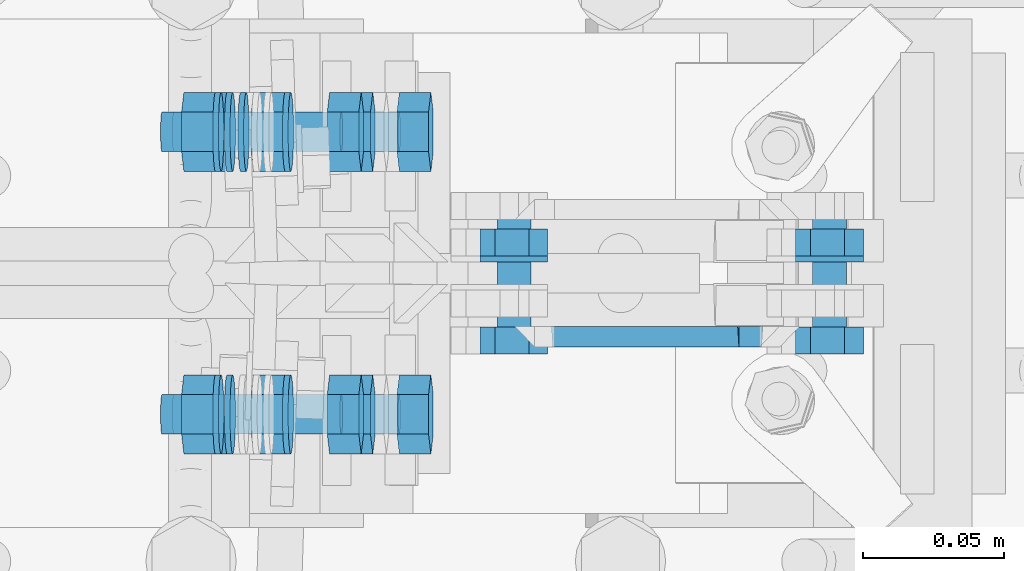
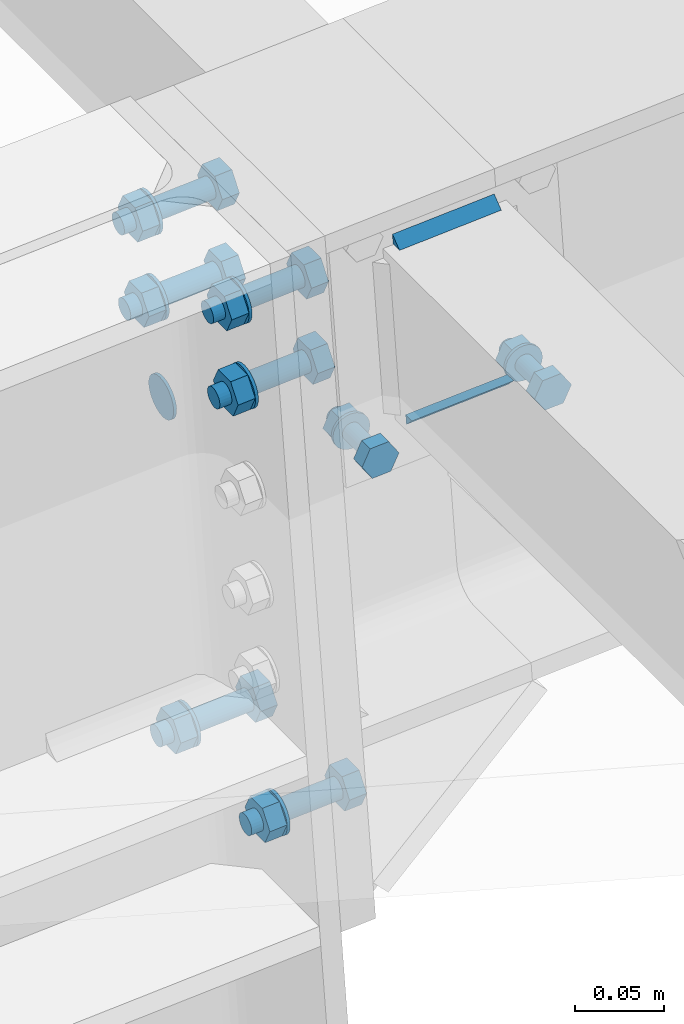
# One storey, part 56 of 72: 33 mechanical fasteners, 4 fasteners.
"""IFC4 building model written with IfcOpenShell, lengths in metres."""

from ifc_helpers import new_model, si_unit, frame, origin_with_axes, place, context, project, spatial, polyline, outline, extrude, type_object, element, save


model = new_model("IFC4")

# Units and contexts
model_context = context("Model", 3, precision=1e-05, world=origin_with_axes())
ifc_project = project(units=[si_unit("LENGTHUNIT", "METRE"), si_unit("AREAUNIT", "SQUARE_METRE"), si_unit("VOLUMEUNIT", "CUBIC_METRE"), si_unit("MASSUNIT", "GRAM", prefix="KILO"), si_unit("TIMEUNIT", "SECOND"), si_unit("PLANEANGLEUNIT", "RADIAN"), si_unit("SOLIDANGLEUNIT", "STERADIAN"), si_unit("THERMODYNAMICTEMPERATUREUNIT", "DEGREE_CELSIUS")], contexts=[model_context])

# Site, building, storey
placement_1 = place(None, origin_with_axes())
site = spatial("IfcSite", under=ifc_project, at=placement_1, Name="Italia", CompositionType="ELEMENT")
building = spatial("IfcBuilding", under=site, at=placement_1, Name="Pensilina", CompositionType="ELEMENT")
storey = spatial("IfcBuildingStorey", under=building, at=placement_1, Name="Storey 0", CompositionType="ELEMENT", Elevation=0.0)

# Mechanical fasteners
mechanical_fastener_type_1 = type_object("IfcMechanicalFastenerType", Name="Collegamento 0104_0204", PredefinedType="BOLT")
placement_2 = place(placement_1, origin_with_axes())
mechanical_fastener_1_placement = place(placement_2, origin_with_axes())
element("IfcMechanicalFastener", 1, at=mechanical_fastener_1_placement, inside=storey, type_object=mechanical_fastener_type_1, Name="Collegamento 0104_0204", NominalDiameter=0.028, context=model_context, shape_type="SweptSolid", body=[
    extrude(outline(polyline([(0.0, 0.0, 0.0), (-0.000476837, -0.00362349, 0.0), (-0.00187588, -0.00699997, 0.0), (-0.0041008, -0.00989938, 0.0), (-0.00699997, -0.0121243, 0.0), (-0.0103769, -0.0135229, 0.0), (-0.0139999, -0.0139999, 0.0), (-0.0176229, -0.0135229, 0.0), (-0.0209999, -0.0121243, 0.0), (-0.0238991, -0.00989938, 0.0), (-0.026124, -0.00699997, 0.0), (-0.027523, -0.00362349, 0.0), (-0.0279999, 0.0, 0.0), (-0.027523, 0.00362349, 0.0), (-0.026124, 0.00699997, 0.0), (-0.0238991, 0.00989962, 0.0), (-0.0209999, 0.0121245, 0.0), (-0.0176229, 0.0135231, 0.0), (-0.0139999, 0.0139999, 0.0), (-0.0103769, 0.0135231, 0.0), (-0.00699997, 0.0121245, 0.0), (-0.0041008, 0.00989962, 0.0), (-0.00187588, 0.00699997, 0.0), (-0.000476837, 0.00362349, 0.0), (0.0, 0.0, 0.0)])), frame((0.873596, 15.904, 3.64635), z_axis=(0.997647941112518, 0.0, 0.068546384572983), x_axis=(0.0, 1.0, 0.0)), (0.0, 0.0, 1.0), 0.00199997),
])
mechanical_fastener_type_2 = type_object("IfcMechanicalFastenerType", Name="Collegamento 0104_0204", PredefinedType="BOLT")
mechanical_fastener_2_placement = place(placement_2, origin_with_axes())
element("IfcMechanicalFastener", 2, at=mechanical_fastener_2_placement, inside=storey, type_object=mechanical_fastener_type_2, Name="Collegamento 0104_0204", NominalDiameter=0.0139999, context=model_context, shape_type="SweptSolid", body=[
    extrude(outline(polyline([(0.0, 0.0, 0.0), (-0.0139999, 0.0, 0.0), (-0.0209999, 0.0121245, 0.0), (-0.0139999, 0.0242486, 0.0), (0.0, 0.0242486, 0.0), (0.00699997, 0.0121245, 0.0), (0.0, 0.0, 0.0)])), frame((0.910034, 15.797, 3.70687), z_axis=(0.997648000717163, 0.0, 0.068545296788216), x_axis=(0.0, 1.0, 0.0)), (0.0, 0.0, 1.0), 0.0112),
])
mechanical_fastener_type_3 = type_object("IfcMechanicalFastenerType", Name="Collegamento 0104_0204", PredefinedType="BOLT")
mechanical_fastener_3_placement = place(placement_2, origin_with_axes())
element("IfcMechanicalFastener", 3, at=mechanical_fastener_3_placement, inside=storey, type_object=mechanical_fastener_type_3, Name="Collegamento 0104_0204", NominalDiameter=0.014, context=model_context, shape_type="SweptSolid", body=[
    extrude(outline(polyline([(0.0, 0.0, 0.0), (-0.000238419, -0.00181174, 0.0), (-0.000937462, -0.00350022, 0.0), (-0.0020504, -0.00494981, 0.0), (-0.00349998, -0.00606227, 0.0), (-0.00518799, -0.00676155, 0.0), (-0.00699997, -0.00699997, 0.0), (-0.00881195, -0.00676155, 0.0), (-0.0105, -0.00606227, 0.0), (-0.0119495, -0.00494981, 0.0), (-0.0130625, -0.00350022, 0.0), (-0.0137615, -0.00181174, 0.0), (-0.0139999, 0.0, 0.0), (-0.0137615, 0.00181174, 0.0), (-0.0130625, 0.00349998, 0.0), (-0.0119495, 0.00494981, 0.0), (-0.0105, 0.00606227, 0.0), (-0.00881195, 0.00676131, 0.0), (-0.00699997, 0.00699997, 0.0), (-0.00518799, 0.00676131, 0.0), (-0.00349998, 0.00606227, 0.0), (-0.0020504, 0.00494981, 0.0), (-0.000937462, 0.00349998, 0.0), (-0.000238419, 0.00181174, 0.0), (0.0, 0.0, 0.0)])), frame((0.849843, 15.797, 3.71489), z_axis=(0.997648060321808, 0.0, 0.068544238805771), x_axis=(0.0, 1.0, 0.0)), (0.0, 0.0, 1.0), 0.0595001),
])
mechanical_fastener_type_4 = type_object("IfcMechanicalFastenerType", Name="Collegamento 0104_0204", PredefinedType="BOLT")
mechanical_fastener_4_placement = place(placement_2, origin_with_axes())
element("IfcMechanicalFastener", 4, at=mechanical_fastener_4_placement, inside=storey, type_object=mechanical_fastener_type_4, Name="Collegamento 0104_0204", NominalDiameter=0.0139999, context=model_context, shape_type="SweptSolid", body=[
    extrude(outline(polyline([(0.0, 0.0, 0.0), (-0.0139999, 0.0, 0.0), (-0.0209999, 0.0121245, 0.0), (-0.0139999, 0.0242488, 0.0), (0.0, 0.0242488, 0.0), (0.00699997, 0.0121245, 0.0), (0.0, 0.0, 0.0)])), frame((0.858455, 15.797, 3.70333), z_axis=(0.997648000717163, 0.0, 0.068545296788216), x_axis=(0.0, 1.0, 0.0)), (0.0, 0.0, 1.0), 0.0112),
])
mechanical_fastener_type_5 = type_object("IfcMechanicalFastenerType", Name="Collegamento 0104_0204", PredefinedType="BOLT")
mechanical_fastener_5_placement = place(placement_2, origin_with_axes())
element("IfcMechanicalFastener", 5, at=mechanical_fastener_5_placement, inside=storey, type_object=mechanical_fastener_type_5, Name="Collegamento 0104_0204", NominalDiameter=0.028, context=model_context, shape_type="SweptSolid", body=[
    extrude(outline(polyline([(0.0, 0.0, 0.0), (-0.000476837, -0.00362349, 0.0), (-0.00187588, -0.00699997, 0.0), (-0.0041008, -0.00989962, 0.0), (-0.00699997, -0.0121245, 0.0), (-0.0103769, -0.0135229, 0.0), (-0.0139999, -0.0139999, 0.0), (-0.0176229, -0.0135229, 0.0), (-0.0209999, -0.0121245, 0.0), (-0.0238991, -0.00989962, 0.0), (-0.026124, -0.00699997, 0.0), (-0.027523, -0.00362349, 0.0), (-0.0279999, 0.0, 0.0), (-0.027523, 0.00362349, 0.0), (-0.026124, 0.00699997, 0.0), (-0.0238991, 0.00989962, 0.0), (-0.0209999, 0.0121245, 0.0), (-0.0176229, 0.0135229, 0.0), (-0.0139999, 0.0139999, 0.0), (-0.0103769, 0.0135229, 0.0), (-0.00699997, 0.0121245, 0.0), (-0.0041008, 0.00989962, 0.0), (-0.00187588, 0.00699997, 0.0), (-0.000476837, 0.00362349, 0.0), (0.0, 0.0, 0.0)])), frame((0.868798, 15.804, 3.71619), z_axis=(0.997648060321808, 0.0, 0.06854435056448), x_axis=(0.0, 1.0, 0.0)), (0.0, 0.0, 1.0), 0.00200003),
])
mechanical_fastener_type_6 = type_object("IfcMechanicalFastenerType", Name="Collegamento 0104_0204", PredefinedType="BOLT")
mechanical_fastener_6_placement = place(placement_2, origin_with_axes())
element("IfcMechanicalFastener", 6, at=mechanical_fastener_6_placement, inside=storey, type_object=mechanical_fastener_type_6, Name="Collegamento 0104_0204", NominalDiameter=0.0139999, context=model_context, shape_type="SweptSolid", body=[
    extrude(outline(polyline([(0.0, 0.0, 0.0), (-0.0139999, 0.0, 0.0), (-0.0209999, 0.0121245, 0.0), (-0.0139999, 0.0242486, 0.0), (0.0, 0.0242486, 0.0), (0.00699997, 0.0121245, 0.0), (0.0, 0.0, 0.0)])), frame((0.910034, 15.897, 3.70687), z_axis=(0.997648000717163, 0.0, 0.068545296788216), x_axis=(0.0, 1.0, 0.0)), (0.0, 0.0, 1.0), 0.0112),
])
mechanical_fastener_type_7 = type_object("IfcMechanicalFastenerType", Name="Collegamento 0104_0204", PredefinedType="BOLT")
mechanical_fastener_7_placement = place(placement_2, origin_with_axes())
element("IfcMechanicalFastener", 7, at=mechanical_fastener_7_placement, inside=storey, type_object=mechanical_fastener_type_7, Name="Collegamento 0104_0204", NominalDiameter=0.014, context=model_context, shape_type="SweptSolid", body=[
    extrude(outline(polyline([(0.0, 0.0, 0.0), (-0.000238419, -0.00181174, 0.0), (-0.000937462, -0.00350022, 0.0), (-0.0020504, -0.00494981, 0.0), (-0.00349998, -0.00606227, 0.0), (-0.00518799, -0.00676155, 0.0), (-0.00699997, -0.00699997, 0.0), (-0.00881195, -0.00676155, 0.0), (-0.0105, -0.00606227, 0.0), (-0.0119495, -0.00494981, 0.0), (-0.0130625, -0.00350022, 0.0), (-0.0137615, -0.00181174, 0.0), (-0.0139999, 0.0, 0.0), (-0.0137615, 0.00181174, 0.0), (-0.0130625, 0.00349998, 0.0), (-0.0119495, 0.00494981, 0.0), (-0.0105, 0.00606227, 0.0), (-0.00881195, 0.00676131, 0.0), (-0.00699997, 0.00699997, 0.0), (-0.00518799, 0.00676131, 0.0), (-0.00349998, 0.00606227, 0.0), (-0.0020504, 0.00494981, 0.0), (-0.000937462, 0.00349998, 0.0), (-0.000238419, 0.00181174, 0.0), (0.0, 0.0, 0.0)])), frame((0.849843, 15.897, 3.71489), z_axis=(0.997648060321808, 0.0, 0.068544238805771), x_axis=(0.0, 1.0, 0.0)), (0.0, 0.0, 1.0), 0.0595001),
])
mechanical_fastener_type_8 = type_object("IfcMechanicalFastenerType", Name="Collegamento 0104_0204", PredefinedType="BOLT")
mechanical_fastener_8_placement = place(placement_2, origin_with_axes())
element("IfcMechanicalFastener", 8, at=mechanical_fastener_8_placement, inside=storey, type_object=mechanical_fastener_type_8, Name="Collegamento 0104_0204", NominalDiameter=0.0139999, context=model_context, shape_type="SweptSolid", body=[
    extrude(outline(polyline([(0.0, 0.0, 0.0), (-0.0139999, 0.0, 0.0), (-0.0209999, 0.0121245, 0.0), (-0.0139999, 0.0242488, 0.0), (0.0, 0.0242488, 0.0), (0.00699997, 0.0121245, 0.0), (0.0, 0.0, 0.0)])), frame((0.858455, 15.897, 3.70333), z_axis=(0.997648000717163, 0.0, 0.068545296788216), x_axis=(0.0, 1.0, 0.0)), (0.0, 0.0, 1.0), 0.0112),
])
mechanical_fastener_type_9 = type_object("IfcMechanicalFastenerType", Name="Collegamento 0104_0204", PredefinedType="BOLT")
mechanical_fastener_9_placement = place(placement_2, origin_with_axes())
element("IfcMechanicalFastener", 9, at=mechanical_fastener_9_placement, inside=storey, type_object=mechanical_fastener_type_9, Name="Collegamento 0104_0204", NominalDiameter=0.028, context=model_context, shape_type="SweptSolid", body=[
    extrude(outline(polyline([(0.0, 0.0, 0.0), (-0.000476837, -0.00362349, 0.0), (-0.00187588, -0.00699997, 0.0), (-0.0041008, -0.00989962, 0.0), (-0.00699997, -0.0121245, 0.0), (-0.0103769, -0.0135229, 0.0), (-0.0139999, -0.0139999, 0.0), (-0.0176229, -0.0135229, 0.0), (-0.0209999, -0.0121245, 0.0), (-0.0238991, -0.00989962, 0.0), (-0.026124, -0.00699997, 0.0), (-0.027523, -0.00362349, 0.0), (-0.0279999, 0.0, 0.0), (-0.027523, 0.00362349, 0.0), (-0.026124, 0.00699997, 0.0), (-0.0238991, 0.00989962, 0.0), (-0.0209999, 0.0121245, 0.0), (-0.0176229, 0.0135229, 0.0), (-0.0139999, 0.0139999, 0.0), (-0.0103769, 0.0135229, 0.0), (-0.00699997, 0.0121245, 0.0), (-0.0041008, 0.00989962, 0.0), (-0.00187588, 0.00699997, 0.0), (-0.000476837, 0.00362349, 0.0), (0.0, 0.0, 0.0)])), frame((0.868798, 15.904, 3.71619), z_axis=(0.997648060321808, 0.0, 0.06854435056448), x_axis=(0.0, 1.0, 0.0)), (0.0, 0.0, 1.0), 0.00200003),
])
mechanical_fastener_type_10 = type_object("IfcMechanicalFastenerType", Name="Collegamento 0104_0204", PredefinedType="BOLT")
mechanical_fastener_10_placement = place(placement_2, origin_with_axes())
element("IfcMechanicalFastener", 10, at=mechanical_fastener_10_placement, inside=storey, type_object=mechanical_fastener_type_10, Name="Collegamento 0104_0204", NominalDiameter=0.0139999, context=model_context, shape_type="SweptSolid", body=[
    extrude(outline(polyline([(0.0, 0.0, 0.0), (-0.0139999, 0.0, 0.0), (-0.0209999, 0.0121243, 0.0), (-0.0139999, 0.0242486, 0.0), (0.0, 0.0242486, 0.0), (0.00699997, 0.0121243, 0.0), (0.0, 0.0, 0.0)])), frame((0.905921, 15.797, 3.76673), z_axis=(0.997649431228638, 0.0, 0.068524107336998), x_axis=(0.0, 1.0, 0.0)), (0.0, 0.0, 1.0), 0.0112),
])
mechanical_fastener_type_11 = type_object("IfcMechanicalFastenerType", Name="Collegamento 0104_0204", PredefinedType="BOLT")
mechanical_fastener_11_placement = place(placement_2, origin_with_axes())
element("IfcMechanicalFastener", 11, at=mechanical_fastener_11_placement, inside=storey, type_object=mechanical_fastener_type_11, Name="Collegamento 0104_0204", NominalDiameter=0.014, context=model_context, shape_type="SweptSolid", body=[
    extrude(outline(polyline([(0.0, 0.0, 0.0), (-0.000238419, -0.00181174, 0.0), (-0.000937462, -0.00350022, 0.0), (-0.0020504, -0.00494981, 0.0), (-0.00349998, -0.00606227, 0.0), (-0.00518799, -0.00676155, 0.0), (-0.00699997, -0.00699997, 0.0), (-0.00881195, -0.00676155, 0.0), (-0.0105, -0.00606227, 0.0), (-0.0119495, -0.00494981, 0.0), (-0.0130625, -0.00350022, 0.0), (-0.0137615, -0.00181174, 0.0), (-0.0139999, 0.0, 0.0), (-0.0137615, 0.00181174, 0.0), (-0.0130625, 0.00349998, 0.0), (-0.0119495, 0.00494981, 0.0), (-0.0105, 0.00606227, 0.0), (-0.00881195, 0.00676155, 0.0), (-0.00699997, 0.00699997, 0.0), (-0.00518799, 0.00676155, 0.0), (-0.00349998, 0.00606227, 0.0), (-0.0020504, 0.00494981, 0.0), (-0.000937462, 0.00349998, 0.0), (-0.000238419, 0.00181174, 0.0), (0.0, 0.0, 0.0)])), frame((0.84573, 15.797, 3.77475), z_axis=(0.997648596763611, 0.0, 0.068536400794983), x_axis=(0.0, 1.0, 0.0)), (0.0, 0.0, 1.0), 0.0594999),
])
mechanical_fastener_type_12 = type_object("IfcMechanicalFastenerType", Name="Collegamento 0104_0204", PredefinedType="BOLT")
mechanical_fastener_12_placement = place(placement_2, origin_with_axes())
element("IfcMechanicalFastener", 12, at=mechanical_fastener_12_placement, inside=storey, type_object=mechanical_fastener_type_12, Name="Collegamento 0104_0204", NominalDiameter=0.0139999, context=model_context, shape_type="SweptSolid", body=[
    extrude(outline(polyline([(0.0, 0.0, 0.0), (-0.0139999, 0.0, 0.0), (-0.0209999, 0.0121241, 0.0), (-0.0139999, 0.0242486, 0.0), (0.0, 0.0242486, 0.0), (0.00699997, 0.0121241, 0.0), (0.0, 0.0, 0.0)])), frame((0.854343, 15.797, 3.76318), z_axis=(0.997648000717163, 0.0, 0.068545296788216), x_axis=(0.0, 1.0, 0.0)), (0.0, 0.0, 1.0), 0.0112),
])
mechanical_fastener_type_13 = type_object("IfcMechanicalFastenerType", Name="Collegamento 0104_0204", PredefinedType="BOLT")
mechanical_fastener_13_placement = place(placement_2, origin_with_axes())
element("IfcMechanicalFastener", 13, at=mechanical_fastener_13_placement, inside=storey, type_object=mechanical_fastener_type_13, Name="Collegamento 0104_0204", NominalDiameter=0.028, context=model_context, shape_type="SweptSolid", body=[
    extrude(outline(polyline([(0.0, 0.0, 0.0), (-0.000476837, -0.00362325, 0.0), (-0.00187588, -0.00699997, 0.0), (-0.0041008, -0.00989938, 0.0), (-0.00699997, -0.0121243, 0.0), (-0.0103769, -0.0135229, 0.0), (-0.0139999, -0.0139999, 0.0), (-0.0176229, -0.0135229, 0.0), (-0.0209999, -0.0121243, 0.0), (-0.0238991, -0.00989938, 0.0), (-0.026124, -0.00699997, 0.0), (-0.027523, -0.00362325, 0.0), (-0.0279999, 0.0, 0.0), (-0.027523, 0.00362349, 0.0), (-0.026124, 0.00700021, 0.0), (-0.0238991, 0.00989962, 0.0), (-0.0209999, 0.0121245, 0.0), (-0.0176229, 0.0135231, 0.0), (-0.0139999, 0.0140002, 0.0), (-0.0103769, 0.0135231, 0.0), (-0.00699997, 0.0121245, 0.0), (-0.0041008, 0.00989962, 0.0), (-0.00187588, 0.00700021, 0.0), (-0.000476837, 0.00362349, 0.0), (0.0, 0.0, 0.0)])), frame((0.864685, 15.804, 3.77605), z_axis=(0.997647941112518, 0.0, 0.068546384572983), x_axis=(0.0, 1.0, 0.0)), (0.0, 0.0, 1.0), 0.00199997),
])
mechanical_fastener_type_14 = type_object("IfcMechanicalFastenerType", Name="Collegamento 0104_0204", PredefinedType="BOLT")
mechanical_fastener_14_placement = place(placement_2, origin_with_axes())
element("IfcMechanicalFastener", 14, at=mechanical_fastener_14_placement, inside=storey, type_object=mechanical_fastener_type_14, Name="Collegamento 0104_0204", NominalDiameter=0.0139999, context=model_context, shape_type="SweptSolid", body=[
    extrude(outline(polyline([(0.0, 0.0, 0.0), (-0.0139999, 0.0, 0.0), (-0.0209999, 0.0121243, 0.0), (-0.0139999, 0.0242486, 0.0), (0.0, 0.0242486, 0.0), (0.00699997, 0.0121243, 0.0), (0.0, 0.0, 0.0)])), frame((0.905921, 15.897, 3.76673), z_axis=(0.997649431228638, 0.0, 0.068524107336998), x_axis=(0.0, 1.0, 0.0)), (0.0, 0.0, 1.0), 0.0112),
])
mechanical_fastener_type_15 = type_object("IfcMechanicalFastenerType", Name="Collegamento 0104_0204", PredefinedType="BOLT")
mechanical_fastener_15_placement = place(placement_2, origin_with_axes())
element("IfcMechanicalFastener", 15, at=mechanical_fastener_15_placement, inside=storey, type_object=mechanical_fastener_type_15, Name="Collegamento 0104_0204", NominalDiameter=0.014, context=model_context, shape_type="SweptSolid", body=[
    extrude(outline(polyline([(0.0, 0.0, 0.0), (-0.000238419, -0.00181174, 0.0), (-0.000937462, -0.00350022, 0.0), (-0.0020504, -0.00494981, 0.0), (-0.00349998, -0.00606227, 0.0), (-0.00518799, -0.00676155, 0.0), (-0.00699997, -0.00699997, 0.0), (-0.00881195, -0.00676155, 0.0), (-0.0105, -0.00606227, 0.0), (-0.0119495, -0.00494981, 0.0), (-0.0130625, -0.00350022, 0.0), (-0.0137615, -0.00181174, 0.0), (-0.0139999, 0.0, 0.0), (-0.0137615, 0.00181174, 0.0), (-0.0130625, 0.00349998, 0.0), (-0.0119495, 0.00494981, 0.0), (-0.0105, 0.00606227, 0.0), (-0.00881195, 0.00676155, 0.0), (-0.00699997, 0.00699997, 0.0), (-0.00518799, 0.00676155, 0.0), (-0.00349998, 0.00606227, 0.0), (-0.0020504, 0.00494981, 0.0), (-0.000937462, 0.00349998, 0.0), (-0.000238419, 0.00181174, 0.0), (0.0, 0.0, 0.0)])), frame((0.84573, 15.897, 3.77475), z_axis=(0.997648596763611, 0.0, 0.068536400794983), x_axis=(0.0, 1.0, 0.0)), (0.0, 0.0, 1.0), 0.0594999),
])
mechanical_fastener_type_16 = type_object("IfcMechanicalFastenerType", Name="Collegamento 0104_0204", PredefinedType="BOLT")
mechanical_fastener_16_placement = place(placement_2, origin_with_axes())
element("IfcMechanicalFastener", 16, at=mechanical_fastener_16_placement, inside=storey, type_object=mechanical_fastener_type_16, Name="Collegamento 0104_0204", NominalDiameter=0.0139999, context=model_context, shape_type="SweptSolid", body=[
    extrude(outline(polyline([(0.0, 0.0, 0.0), (-0.0139999, 0.0, 0.0), (-0.0209999, 0.0121241, 0.0), (-0.0139999, 0.0242486, 0.0), (0.0, 0.0242486, 0.0), (0.00699997, 0.0121241, 0.0), (0.0, 0.0, 0.0)])), frame((0.854343, 15.897, 3.76318), z_axis=(0.997648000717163, 0.0, 0.068545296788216), x_axis=(0.0, 1.0, 0.0)), (0.0, 0.0, 1.0), 0.0112),
])
mechanical_fastener_type_17 = type_object("IfcMechanicalFastenerType", Name="Collegamento 0104_0204", PredefinedType="BOLT")
mechanical_fastener_17_placement = place(placement_2, origin_with_axes())
element("IfcMechanicalFastener", 17, at=mechanical_fastener_17_placement, inside=storey, type_object=mechanical_fastener_type_17, Name="Collegamento 0104_0204", NominalDiameter=0.028, context=model_context, shape_type="SweptSolid", body=[
    extrude(outline(polyline([(0.0, 0.0, 0.0), (-0.000476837, -0.00362325, 0.0), (-0.00187588, -0.00699997, 0.0), (-0.0041008, -0.00989938, 0.0), (-0.00699997, -0.0121243, 0.0), (-0.0103769, -0.0135229, 0.0), (-0.0139999, -0.0139999, 0.0), (-0.0176229, -0.0135229, 0.0), (-0.0209999, -0.0121243, 0.0), (-0.0238991, -0.00989938, 0.0), (-0.026124, -0.00699997, 0.0), (-0.027523, -0.00362325, 0.0), (-0.0279999, 0.0, 0.0), (-0.027523, 0.00362349, 0.0), (-0.026124, 0.00700021, 0.0), (-0.0238991, 0.00989962, 0.0), (-0.0209999, 0.0121245, 0.0), (-0.0176229, 0.0135231, 0.0), (-0.0139999, 0.0140002, 0.0), (-0.0103769, 0.0135231, 0.0), (-0.00699997, 0.0121245, 0.0), (-0.0041008, 0.00989962, 0.0), (-0.00187588, 0.00700021, 0.0), (-0.000476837, 0.00362349, 0.0), (0.0, 0.0, 0.0)])), frame((0.864685, 15.904, 3.77605), z_axis=(0.997647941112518, 0.0, 0.068546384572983), x_axis=(0.0, 1.0, 0.0)), (0.0, 0.0, 1.0), 0.00199997),
])
mechanical_fastener_type_18 = type_object("IfcMechanicalFastenerType", Name="Collegamento 0104_0204", PredefinedType="BOLT")
mechanical_fastener_18_placement = place(placement_2, origin_with_axes())
element("IfcMechanicalFastener", 18, at=mechanical_fastener_18_placement, inside=storey, type_object=mechanical_fastener_type_18, Name="Collegamento 0104_0204", NominalDiameter=0.0139999, context=model_context, shape_type="SweptSolid", body=[
    extrude(outline(polyline([(0.0, 0.0, 0.0), (-0.0139999, 0.0, 0.0), (-0.0209999, 0.0121245, 0.0), (-0.0139999, 0.0242486, 0.0), (0.0, 0.0242486, 0.0), (0.00699997, 0.0121245, 0.0), (0.0, 0.0, 0.0)])), frame((0.930596, 15.797, 3.40757), z_axis=(0.997648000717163, 0.0, 0.068545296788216), x_axis=(0.0, 1.0, 0.0)), (0.0, 0.0, 1.0), 0.0112),
])
mechanical_fastener_type_19 = type_object("IfcMechanicalFastenerType", Name="Collegamento 0104_0204", PredefinedType="BOLT")
mechanical_fastener_19_placement = place(placement_2, origin_with_axes())
element("IfcMechanicalFastener", 19, at=mechanical_fastener_19_placement, inside=storey, type_object=mechanical_fastener_type_19, Name="Collegamento 0104_0204", NominalDiameter=0.014, context=model_context, shape_type="SweptSolid", body=[
    extrude(outline(polyline([(0.0, 0.0, 0.0), (-0.000238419, -0.0018115, 0.0), (-0.000937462, -0.00349998, 0.0), (-0.0020504, -0.00494957, 0.0), (-0.00349998, -0.00606203, 0.0), (-0.00518799, -0.00676131, 0.0), (-0.00699997, -0.00699997, 0.0), (-0.00881195, -0.00676131, 0.0), (-0.0105, -0.00606203, 0.0), (-0.0119495, -0.00494957, 0.0), (-0.0130625, -0.00349998, 0.0), (-0.0137615, -0.0018115, 0.0), (-0.0139999, 0.0, 0.0), (-0.0137615, 0.00181174, 0.0), (-0.0130625, 0.00350022, 0.0), (-0.0119495, 0.00494981, 0.0), (-0.0105, 0.00606227, 0.0), (-0.00881195, 0.00676155, 0.0), (-0.00699997, 0.00699997, 0.0), (-0.00518799, 0.00676155, 0.0), (-0.00349998, 0.00606227, 0.0), (-0.0020504, 0.00494981, 0.0), (-0.000937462, 0.00350022, 0.0), (-0.000238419, 0.00181174, 0.0), (0.0, 0.0, 0.0)])), frame((0.870405, 15.797, 3.41559), z_axis=(0.997648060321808, 0.0, 0.068544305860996), x_axis=(0.0, 1.0, 0.0)), (0.0, 0.0, 1.0), 0.0595),
])
mechanical_fastener_type_20 = type_object("IfcMechanicalFastenerType", Name="Collegamento 0104_0204", PredefinedType="BOLT")
mechanical_fastener_20_placement = place(placement_2, origin_with_axes())
element("IfcMechanicalFastener", 20, at=mechanical_fastener_20_placement, inside=storey, type_object=mechanical_fastener_type_20, Name="Collegamento 0104_0204", NominalDiameter=0.0139999, context=model_context, shape_type="SweptSolid", body=[
    extrude(outline(polyline([(0.0, 0.0, 0.0), (-0.0139999, 0.0, 0.0), (-0.0209999, 0.0121243, 0.0), (-0.0139999, 0.0242488, 0.0), (0.0, 0.0242488, 0.0), (0.00699997, 0.0121243, 0.0), (0.0, 0.0, 0.0)])), frame((0.879017, 15.797, 3.40403), z_axis=(0.997648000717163, 0.0, 0.068545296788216), x_axis=(0.0, 1.0, 0.0)), (0.0, 0.0, 1.0), 0.0112),
])
mechanical_fastener_type_21 = type_object("IfcMechanicalFastenerType", Name="Collegamento 0104_0204", PredefinedType="BOLT")
mechanical_fastener_21_placement = place(placement_2, origin_with_axes())
element("IfcMechanicalFastener", 21, at=mechanical_fastener_21_placement, inside=storey, type_object=mechanical_fastener_type_21, Name="Collegamento 0104_0204", NominalDiameter=0.028, context=model_context, shape_type="SweptSolid", body=[
    extrude(outline(polyline([(0.0, 0.0, 0.0), (-0.000476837, -0.00362349, 0.0), (-0.00187588, -0.00699997, 0.0), (-0.0041008, -0.00989962, 0.0), (-0.00699997, -0.0121245, 0.0), (-0.0103769, -0.0135231, 0.0), (-0.0139999, -0.0139999, 0.0), (-0.0176229, -0.0135231, 0.0), (-0.0209999, -0.0121245, 0.0), (-0.0238991, -0.00989962, 0.0), (-0.026124, -0.00699997, 0.0), (-0.027523, -0.00362349, 0.0), (-0.0279999, 0.0, 0.0), (-0.027523, 0.00362349, 0.0), (-0.026124, 0.00699997, 0.0), (-0.0238991, 0.00989962, 0.0), (-0.0209999, 0.0121243, 0.0), (-0.0176229, 0.0135229, 0.0), (-0.0139999, 0.0139999, 0.0), (-0.0103769, 0.0135229, 0.0), (-0.00699997, 0.0121243, 0.0), (-0.0041008, 0.00989962, 0.0), (-0.00187588, 0.00699997, 0.0), (-0.000476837, 0.00362349, 0.0), (0.0, 0.0, 0.0)])), frame((0.88936, 15.804, 3.41689), z_axis=(0.997648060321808, 0.0, 0.06854435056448), x_axis=(0.0, 1.0, 0.0)), (0.0, 0.0, 1.0), 0.00200003),
])
mechanical_fastener_type_22 = type_object("IfcMechanicalFastenerType", Name="Collegamento 0104_0204", PredefinedType="BOLT")
mechanical_fastener_22_placement = place(placement_2, origin_with_axes())
element("IfcMechanicalFastener", 22, at=mechanical_fastener_22_placement, inside=storey, type_object=mechanical_fastener_type_22, Name="Collegamento 0104_0204", NominalDiameter=0.0139999, context=model_context, shape_type="SweptSolid", body=[
    extrude(outline(polyline([(0.0, 0.0, 0.0), (-0.0139999, 0.0, 0.0), (-0.0209999, 0.0121245, 0.0), (-0.0139999, 0.0242486, 0.0), (0.0, 0.0242486, 0.0), (0.00699997, 0.0121245, 0.0), (0.0, 0.0, 0.0)])), frame((0.930596, 15.897, 3.40757), z_axis=(0.997648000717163, 0.0, 0.068545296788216), x_axis=(0.0, 1.0, 0.0)), (0.0, 0.0, 1.0), 0.0112),
])
mechanical_fastener_type_23 = type_object("IfcMechanicalFastenerType", Name="Collegamento 0104_0204", PredefinedType="BOLT")
mechanical_fastener_23_placement = place(placement_2, origin_with_axes())
element("IfcMechanicalFastener", 23, at=mechanical_fastener_23_placement, inside=storey, type_object=mechanical_fastener_type_23, Name="Collegamento 0104_0204", NominalDiameter=0.014, context=model_context, shape_type="SweptSolid", body=[
    extrude(outline(polyline([(0.0, 0.0, 0.0), (-0.000238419, -0.0018115, 0.0), (-0.000937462, -0.00349998, 0.0), (-0.0020504, -0.00494957, 0.0), (-0.00349998, -0.00606203, 0.0), (-0.00518799, -0.00676131, 0.0), (-0.00699997, -0.00699997, 0.0), (-0.00881195, -0.00676131, 0.0), (-0.0105, -0.00606203, 0.0), (-0.0119495, -0.00494957, 0.0), (-0.0130625, -0.00349998, 0.0), (-0.0137615, -0.0018115, 0.0), (-0.0139999, 0.0, 0.0), (-0.0137615, 0.00181174, 0.0), (-0.0130625, 0.00350022, 0.0), (-0.0119495, 0.00494981, 0.0), (-0.0105, 0.00606227, 0.0), (-0.00881195, 0.00676155, 0.0), (-0.00699997, 0.00699997, 0.0), (-0.00518799, 0.00676155, 0.0), (-0.00349998, 0.00606227, 0.0), (-0.0020504, 0.00494981, 0.0), (-0.000937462, 0.00350022, 0.0), (-0.000238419, 0.00181174, 0.0), (0.0, 0.0, 0.0)])), frame((0.870405, 15.897, 3.41559), z_axis=(0.997648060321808, 0.0, 0.068544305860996), x_axis=(0.0, 1.0, 0.0)), (0.0, 0.0, 1.0), 0.0595),
])
mechanical_fastener_type_24 = type_object("IfcMechanicalFastenerType", Name="Collegamento 0104_0204", PredefinedType="BOLT")
mechanical_fastener_24_placement = place(placement_2, origin_with_axes())
element("IfcMechanicalFastener", 24, at=mechanical_fastener_24_placement, inside=storey, type_object=mechanical_fastener_type_24, Name="Collegamento 0104_0204", NominalDiameter=0.0139999, context=model_context, shape_type="SweptSolid", body=[
    extrude(outline(polyline([(0.0, 0.0, 0.0), (-0.0139999, 0.0, 0.0), (-0.0209999, 0.0121243, 0.0), (-0.0139999, 0.0242488, 0.0), (0.0, 0.0242488, 0.0), (0.00699997, 0.0121243, 0.0), (0.0, 0.0, 0.0)])), frame((0.879017, 15.897, 3.40403), z_axis=(0.997648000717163, 0.0, 0.068545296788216), x_axis=(0.0, 1.0, 0.0)), (0.0, 0.0, 1.0), 0.0112),
])
mechanical_fastener_type_25 = type_object("IfcMechanicalFastenerType", Name="Collegamento 0104_0204", PredefinedType="BOLT")
mechanical_fastener_25_placement = place(placement_2, origin_with_axes())
element("IfcMechanicalFastener", 25, at=mechanical_fastener_25_placement, inside=storey, type_object=mechanical_fastener_type_25, Name="Collegamento 0104_0204", NominalDiameter=0.028, context=model_context, shape_type="SweptSolid", body=[
    extrude(outline(polyline([(0.0, 0.0, 0.0), (-0.000476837, -0.00362349, 0.0), (-0.00187588, -0.00699997, 0.0), (-0.0041008, -0.00989962, 0.0), (-0.00699997, -0.0121245, 0.0), (-0.0103769, -0.0135231, 0.0), (-0.0139999, -0.0139999, 0.0), (-0.0176229, -0.0135231, 0.0), (-0.0209999, -0.0121245, 0.0), (-0.0238991, -0.00989962, 0.0), (-0.026124, -0.00699997, 0.0), (-0.027523, -0.00362349, 0.0), (-0.0279999, 0.0, 0.0), (-0.027523, 0.00362349, 0.0), (-0.026124, 0.00699997, 0.0), (-0.0238991, 0.00989962, 0.0), (-0.0209999, 0.0121243, 0.0), (-0.0176229, 0.0135229, 0.0), (-0.0139999, 0.0139999, 0.0), (-0.0103769, 0.0135229, 0.0), (-0.00699997, 0.0121243, 0.0), (-0.0041008, 0.00989962, 0.0), (-0.00187588, 0.00699997, 0.0), (-0.000476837, 0.00362349, 0.0), (0.0, 0.0, 0.0)])), frame((0.88936, 15.904, 3.41689), z_axis=(0.997648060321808, 0.0, 0.06854435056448), x_axis=(0.0, 1.0, 0.0)), (0.0, 0.0, 1.0), 0.00200003),
])

# Fasteners
fastener_type_1 = type_object("IfcFastenerType", Name="Collegamento 0204_0203", PredefinedType="WELD")
fastener_1_placement = place(placement_2, origin_with_axes())
element("IfcFastener", 26, at=fastener_1_placement, inside=storey, type_object=fastener_type_1, Name="Collegamento 0204_0203", context=model_context, shape_type="SweptSolid", body=[
    extrude(outline(polyline([(0.0, 0.0, 0.0), (0.00717354, -0.00695801, 0.0), (0.0, -0.00695801, 0.0), (0.0, 0.0, 0.0)])), frame((1.04952, 15.8211, 3.76556), z_axis=(-0.997731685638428, 0.0, -0.067316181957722), x_axis=(0.0, -1.0, 0.0)), (0.0, 0.0, 1.0), 0.0661001),
])
fastener_type_2 = type_object("IfcFastenerType", Name="Collegamento 0204_0203", PredefinedType="WELD")
fastener_2_placement = place(placement_2, origin_with_axes())
element("IfcFastener", 27, at=fastener_2_placement, inside=storey, type_object=fastener_type_2, Name="Collegamento 0204_0203", context=model_context, shape_type="SweptSolid", body=[
    extrude(outline(polyline([(0.0, 0.0, 0.0), (-0.00717354, 0.00695801, 0.0), (0.0, 0.00695801, 0.0), (0.0, 0.0, 0.0)])), frame((0.992578, 15.8211, 3.6276), z_axis=(0.997731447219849, 0.0, 0.067319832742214), x_axis=(0.0, 1.0, 0.0)), (0.0, 0.0, 1.0), 0.0661),
])
fastener_type_3 = type_object("IfcFastenerType", Name="Collegamento 0204_0203", PredefinedType="WELD")
fastener_3_placement = place(placement_2, origin_with_axes())
element("IfcFastener", 28, at=fastener_3_placement, inside=storey, type_object=fastener_type_3, Name="Collegamento 0204_0203", context=model_context, shape_type="SweptSolid", body=[
    extrude(outline(polyline([(0.0, 0.0, 0.0), (0.00717354, -0.00695801, 0.0), (0.0, -0.00695801, 0.0), (0.0, 0.0, 0.0)])), frame((1.04952, 15.8211, 3.76556), z_axis=(-0.997731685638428, 0.0, -0.067316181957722), x_axis=(0.0, -1.0, 0.0)), (0.0, 0.0, 1.0), 0.0661001),
])
fastener_type_4 = type_object("IfcFastenerType", Name="Collegamento 0204_0203", PredefinedType="WELD")
fastener_4_placement = place(placement_2, origin_with_axes())
element("IfcFastener", 29, at=fastener_4_placement, inside=storey, type_object=fastener_type_4, Name="Collegamento 0204_0203", context=model_context, shape_type="SweptSolid", body=[
    extrude(outline(polyline([(0.0, 0.0, 0.0), (-0.00717354, 0.00695801, 0.0), (0.0, 0.00695801, 0.0), (0.0, 0.0, 0.0)])), frame((0.992578, 15.8211, 3.6276), z_axis=(0.997731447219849, 0.0, 0.067319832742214), x_axis=(0.0, 1.0, 0.0)), (0.0, 0.0, 1.0), 0.0661),
])

# Mechanical fasteners
mechanical_fastener_type_26 = type_object("IfcMechanicalFastenerType", Name="Collegamento 0204_0203", PredefinedType="BOLT")
mechanical_fastener_26_placement = place(placement_2, origin_with_axes())
element("IfcMechanicalFastener", 30, at=mechanical_fastener_26_placement, inside=storey, type_object=mechanical_fastener_type_26, Name="Collegamento 0204_0203", NominalDiameter=0.0119999, context=model_context, shape_type="SweptSolid", body=[
    extrude(outline(polyline([(0.0, 0.0, 0.0), (-0.0119728, -0.000807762, 0.0), (-0.0186588, 0.00915694, 0.0), (-0.0133719, 0.0199296, 0.0), (-0.00139916, 0.0207374, 0.0), (0.00528681, 0.0107727, 0.0), (0.0, 0.0, 0.0)])), frame((0.976979, 15.821, 3.60702), z_axis=(0.0, -1.0, 0.0), x_axis=(1.0, 0.0, 0.0)), (0.0, 0.0, 1.0), 0.00959969),
])
mechanical_fastener_type_27 = type_object("IfcMechanicalFastenerType", Name="Collegamento 0204_0203", PredefinedType="BOLT")
mechanical_fastener_27_placement = place(placement_2, origin_with_axes())
element("IfcMechanicalFastener", 31, at=mechanical_fastener_27_placement, inside=storey, type_object=mechanical_fastener_type_27, Name="Collegamento 0204_0203", NominalDiameter=0.012, context=model_context, shape_type="SweptSolid", body=[
    extrude(outline(polyline([(0.0, 0.0, 0.0), (-0.000204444, -0.00155282, 0.0), (-0.000803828, -0.00300002, 0.0), (-0.00175732, -0.00424266, 0.0), (-0.00299996, -0.00519609, 0.0), (-0.00444704, -0.00579548, 0.0), (-0.00599998, -0.00600004, 0.0), (-0.00755292, -0.00579548, 0.0), (-0.009, -0.00519609, 0.0), (-0.0102426, -0.00424266, 0.0), (-0.0111961, -0.00300002, 0.0), (-0.0117955, -0.00155282, 0.0), (-0.012, 0.0, 0.0), (-0.0117955, 0.00155282, 0.0), (-0.0111961, 0.00300002, 0.0), (-0.0102426, 0.00424266, 0.0), (-0.009, 0.00519609, 0.0), (-0.00755292, 0.00579548, 0.0), (-0.00599998, 0.00600004, 0.0), (-0.00444704, 0.00579548, 0.0), (-0.00299996, 0.00519609, 0.0), (-0.00175732, 0.00424266, 0.0), (-0.000803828, 0.00300002, 0.0), (-0.000204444, 0.00155282, 0.0), (0.0, 0.0, 0.0)])), frame((0.976293, 15.862, 3.61698), z_axis=(0.0, -1.0, 0.0), x_axis=(1.0, 0.0, 0.0)), (0.0, 0.0, 1.0), 0.0410004),
])
mechanical_fastener_type_28 = type_object("IfcMechanicalFastenerType", Name="Collegamento 0204_0203", PredefinedType="BOLT")
mechanical_fastener_28_placement = place(placement_2, origin_with_axes())
element("IfcMechanicalFastener", 32, at=mechanical_fastener_28_placement, inside=storey, type_object=mechanical_fastener_type_28, Name="Collegamento 0204_0203", NominalDiameter=0.0119999, context=model_context, shape_type="SweptSolid", body=[
    extrude(outline(polyline([(0.0, 0.0, 0.0), (-0.0119728, -0.000807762, 0.0), (-0.0186588, 0.00915694, 0.0), (-0.0133719, 0.0199296, 0.0), (-0.00139916, 0.0207374, 0.0), (0.00528681, 0.0107727, 0.0), (0.0, 0.0, 0.0)])), frame((0.976979, 15.8556, 3.60702), z_axis=(0.0, -1.0, 0.0), x_axis=(1.0, 0.0, 0.0)), (0.0, 0.0, 1.0), 0.00959969),
])
mechanical_fastener_type_29 = type_object("IfcMechanicalFastenerType", Name="Collegamento 0204_0203", PredefinedType="BOLT")
mechanical_fastener_29_placement = place(placement_2, origin_with_axes())
element("IfcMechanicalFastener", 33, at=mechanical_fastener_29_placement, inside=storey, type_object=mechanical_fastener_type_29, Name="Collegamento 0204_0203", NominalDiameter=0.024, context=model_context, shape_type="SweptSolid", body=[
    extrude(outline(polyline([(0.0, 0.0, 0.0), (-0.000408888, -0.00310588, 0.0), (-0.00160772, -0.00600004, 0.0), (-0.00351477, -0.00848532, 0.0), (-0.00600004, -0.0103922, 0.0), (-0.00889421, -0.0115912, 0.0), (-0.012, -0.0120001, 0.0), (-0.0151058, -0.0115912, 0.0), (-0.018, -0.0103922, 0.0), (-0.0204853, -0.00848532, 0.0), (-0.0223923, -0.00600004, 0.0), (-0.0235912, -0.00310588, 0.0), (-0.024, 0.0, 0.0), (-0.0235912, 0.00310588, 0.0), (-0.0223923, 0.00600004, 0.0), (-0.0204853, 0.00848532, 0.0), (-0.018, 0.0103922, 0.0), (-0.0151058, 0.0115912, 0.0), (-0.012, 0.0120001, 0.0), (-0.00889421, 0.0115912, 0.0), (-0.00600004, 0.0103922, 0.0), (-0.00351477, 0.00848532, 0.0), (-0.00160772, 0.00600004, 0.0), (-0.000408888, 0.00310588, 0.0), (0.0, 0.0, 0.0)])), frame((0.982293, 15.846, 3.61698), z_axis=(0.0, -1.0, 0.0), x_axis=(1.0, 0.0, 0.0)), (0.0, 0.0, 1.0), 0.00199986),
])
mechanical_fastener_type_30 = type_object("IfcMechanicalFastenerType", Name="Collegamento 0204_0203", PredefinedType="BOLT")
mechanical_fastener_30_placement = place(placement_2, origin_with_axes())
element("IfcMechanicalFastener", 34, at=mechanical_fastener_30_placement, inside=storey, type_object=mechanical_fastener_type_30, Name="Collegamento 0204_0203", NominalDiameter=0.0119999, context=model_context, shape_type="SweptSolid", body=[
    extrude(outline(polyline([(0.0, 0.0, 0.0), (-0.0119728, -0.000807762, 0.0), (-0.0186589, 0.00915694, 0.0), (-0.0133721, 0.0199296, 0.0), (-0.00139928, 0.0207374, 0.0), (0.00528669, 0.0107727, 0.0), (0.0, 0.0, 0.0)])), frame((1.08872, 15.821, 3.61456), z_axis=(0.0, -1.0, 0.0), x_axis=(1.0, 0.0, 0.0)), (0.0, 0.0, 1.0), 0.00959969),
])
mechanical_fastener_type_31 = type_object("IfcMechanicalFastenerType", Name="Collegamento 0204_0203", PredefinedType="BOLT")
mechanical_fastener_31_placement = place(placement_2, origin_with_axes())
element("IfcMechanicalFastener", 35, at=mechanical_fastener_31_placement, inside=storey, type_object=mechanical_fastener_type_31, Name="Collegamento 0204_0203", NominalDiameter=0.012, context=model_context, shape_type="SweptSolid", body=[
    extrude(outline(polyline([(0.0, 0.0, 0.0), (-0.000204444, -0.00155282, 0.0), (-0.000803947, -0.00300002, 0.0), (-0.00175738, -0.00424266, 0.0), (-0.00300002, -0.00519609, 0.0), (-0.0044471, -0.00579548, 0.0), (-0.00600004, -0.00600004, 0.0), (-0.00755298, -0.00579548, 0.0), (-0.00900006, -0.00519609, 0.0), (-0.0102427, -0.00424266, 0.0), (-0.0111961, -0.00300002, 0.0), (-0.0117956, -0.00155282, 0.0), (-0.0120001, 0.0, 0.0), (-0.0117956, 0.00155282, 0.0), (-0.0111961, 0.00300002, 0.0), (-0.0102427, 0.00424266, 0.0), (-0.00900006, 0.00519609, 0.0), (-0.00755298, 0.00579548, 0.0), (-0.00600004, 0.00600004, 0.0), (-0.0044471, 0.00579548, 0.0), (-0.00300002, 0.00519609, 0.0), (-0.00175738, 0.00424266, 0.0), (-0.000803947, 0.00300002, 0.0), (-0.000204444, 0.00155282, 0.0), (0.0, 0.0, 0.0)])), frame((1.08804, 15.862, 3.62452), z_axis=(0.0, -1.0, 0.0), x_axis=(1.0, 0.0, 0.0)), (0.0, 0.0, 1.0), 0.0410004),
])
mechanical_fastener_type_32 = type_object("IfcMechanicalFastenerType", Name="Collegamento 0204_0203", PredefinedType="BOLT")
mechanical_fastener_32_placement = place(placement_2, origin_with_axes())
element("IfcMechanicalFastener", 36, at=mechanical_fastener_32_placement, inside=storey, type_object=mechanical_fastener_type_32, Name="Collegamento 0204_0203", NominalDiameter=0.0119999, context=model_context, shape_type="SweptSolid", body=[
    extrude(outline(polyline([(0.0, 0.0, 0.0), (-0.0119728, -0.000807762, 0.0), (-0.0186589, 0.00915694, 0.0), (-0.0133721, 0.0199296, 0.0), (-0.00139928, 0.0207374, 0.0), (0.00528669, 0.0107727, 0.0), (0.0, 0.0, 0.0)])), frame((1.08872, 15.8556, 3.61456), z_axis=(0.0, -1.0, 0.0), x_axis=(1.0, 0.0, 0.0)), (0.0, 0.0, 1.0), 0.00959969),
])
mechanical_fastener_type_33 = type_object("IfcMechanicalFastenerType", Name="Collegamento 0204_0203", PredefinedType="BOLT")
mechanical_fastener_33_placement = place(placement_2, origin_with_axes())
element("IfcMechanicalFastener", 37, at=mechanical_fastener_33_placement, inside=storey, type_object=mechanical_fastener_type_33, Name="Collegamento 0204_0203", NominalDiameter=0.024, context=model_context, shape_type="SweptSolid", body=[
    extrude(outline(polyline([(0.0, 0.0, 0.0), (-0.000408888, -0.00310588, 0.0), (-0.00160766, -0.00600004, 0.0), (-0.00351465, -0.00848532, 0.0), (-0.00599992, -0.0103922, 0.0), (-0.00889409, -0.0115912, 0.0), (-0.012, -0.0120001, 0.0), (-0.0151058, -0.0115912, 0.0), (-0.018, -0.0103922, 0.0), (-0.0204853, -0.00848532, 0.0), (-0.0223923, -0.00600004, 0.0), (-0.023591, -0.00310588, 0.0), (-0.0239999, 0.0, 0.0), (-0.023591, 0.00310588, 0.0), (-0.0223923, 0.00600004, 0.0), (-0.0204853, 0.00848532, 0.0), (-0.018, 0.0103922, 0.0), (-0.0151058, 0.0115912, 0.0), (-0.012, 0.0120001, 0.0), (-0.00889409, 0.0115912, 0.0), (-0.00599992, 0.0103922, 0.0), (-0.00351465, 0.00848532, 0.0), (-0.00160766, 0.00600004, 0.0), (-0.000408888, 0.00310588, 0.0), (0.0, 0.0, 0.0)])), frame((1.09404, 15.846, 3.62452), z_axis=(0.0, -1.0, 0.0), x_axis=(1.0, 0.0, 0.0)), (0.0, 0.0, 1.0), 0.00199986),
])

save(model, "model.ifc")
